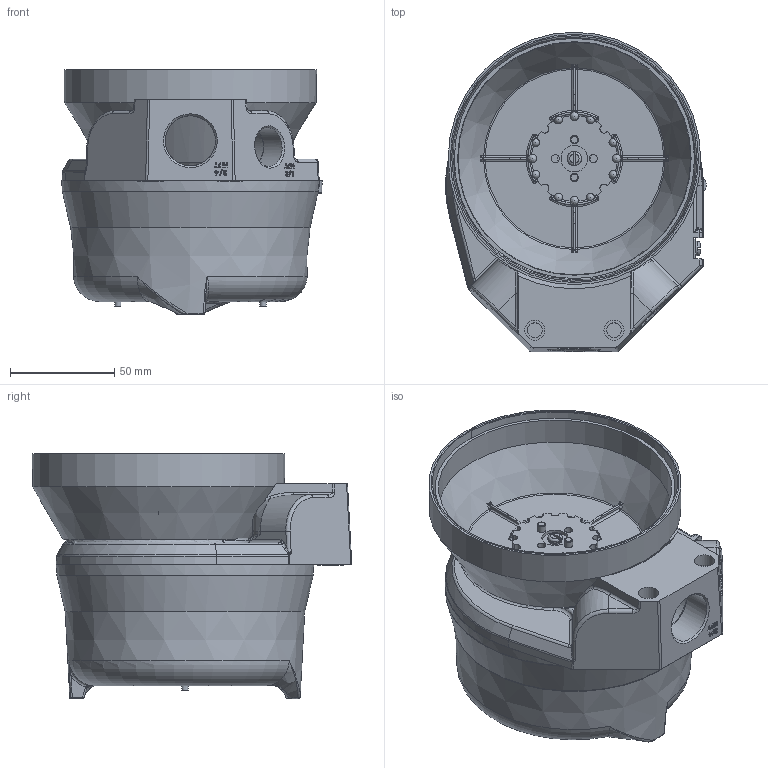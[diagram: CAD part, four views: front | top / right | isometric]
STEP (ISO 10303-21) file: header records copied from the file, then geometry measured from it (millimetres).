
FILE_DESCRIPTION(/* description */ (''),/* implementation_level */ '2;1');
FILE_NAME(/* name */ 'C:\Users\ffmbeskema\Desktop\500139_Quartz ExtVI.stp',/* time_stamp */ '2016-04-07T16:53:51-05:00',/* author */ ('ffmbeskema'),/* organization */ (''),/* preprocessor_version */ 'ST-DEVELOPER v15.2',/* originating_system */ 'Autodesk Inventor 2014',/* authorisation */ '');
FILE_SCHEMA (('AUTOMOTIVE_DESIGN { 1 0 10303 214 3 1 1 }'));
Length unit declared in the file: inch
Products named in the file (1): 500139_Quartz ExtVI
Bounding box: 125.33 x 153.55 x 118.06 mm (x, y, z)
Volume: 1969.7 mm3; surface area: 193519.5 mm2
Topology: 5 solids, 6 shells, 1645 faces, 4511 edges, 2844 vertices
Faces by surface type: plane 653, cylinder 330, bspline 292, cone 206, torus 116, sphere 48
Full cylindrical faces by diameter (mm): 2.642 x3, 3.251 x2, 3.302 x1, 3.429 x2, 3.505 x2, 3.937 x2, 3.969 x2, 3.988 x2, 6.223 x1, 6.35 x1, 6.858 x2, 7.137 x4, 7.925 x4, 9.525 x1, 9.652 x2, 10.287 x2, 10.414 x2, 12.573 x2, 12.7 x3, 12.827 x1, 15.875 x1, 16.662 x1, 18.644 x1, 22.225 x2, 24.105 x1, 25.603 x1, 26.975 x1, 28.854 x1, 34.29 x1, 69.469 x1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
Entity records: 62034 total; most frequent: CARTESIAN_POINT 21433, ORIENTED_EDGE 8492, DIRECTION 7527, EDGE_CURVE 4245, AXIS2_PLACEMENT_3D 2953, VERTEX_POINT 2780, EDGE_LOOP 1865, ADVANCED_FACE 1645
